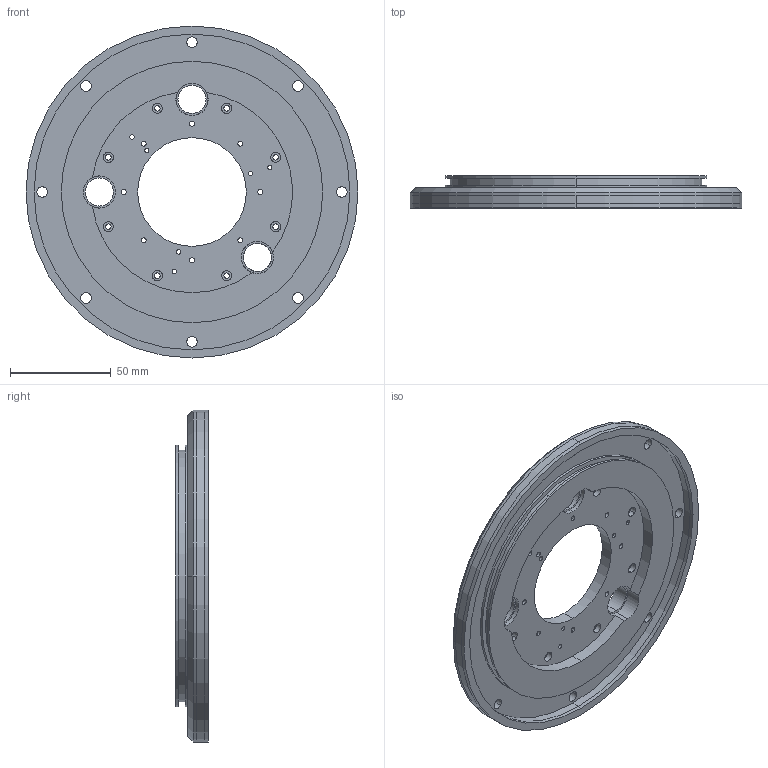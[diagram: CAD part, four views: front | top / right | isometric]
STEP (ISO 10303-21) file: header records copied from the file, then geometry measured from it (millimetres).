
FILE_DESCRIPTION(/* description */ ('VariCAD 2009-1.04 AP-203'),/* implementation_level */ '2;1');
FILE_NAME(/* name */ '0353-10-12',/* time_stamp */ '2009-11-20T18:11:12-07:00',/* author */ (''),/* organization */ (''),/* preprocessor_version */ 'ST-DEVELOPER v12',/* originating_system */ 'VariCAD 2009-1.04; kernel version (20080921)',/* authorisation */ '');
FILE_SCHEMA (('CONFIG_CONTROL_DESIGN'));
Length unit declared in the file: millimetre
Products named in the file (1): Part
Bounding box: 165 x 16 x 165 mm (x, y, z)
Volume: 154286.5 mm3; surface area: 59647.9 mm2
Topology: 1 solids, 1 shells, 175 faces, 445 edges, 286 vertices
Faces by surface type: cylinder 128, plane 33, cone 14
Entity records: 5569 total; most frequent: DIRECTION 1063, CARTESIAN_POINT 908, ORIENTED_EDGE 890, EDGE_CURVE 445, AXIS2_PLACEMENT_3D 441, VERTEX_POINT 286, CIRCLE 264, EDGE_LOOP 257
